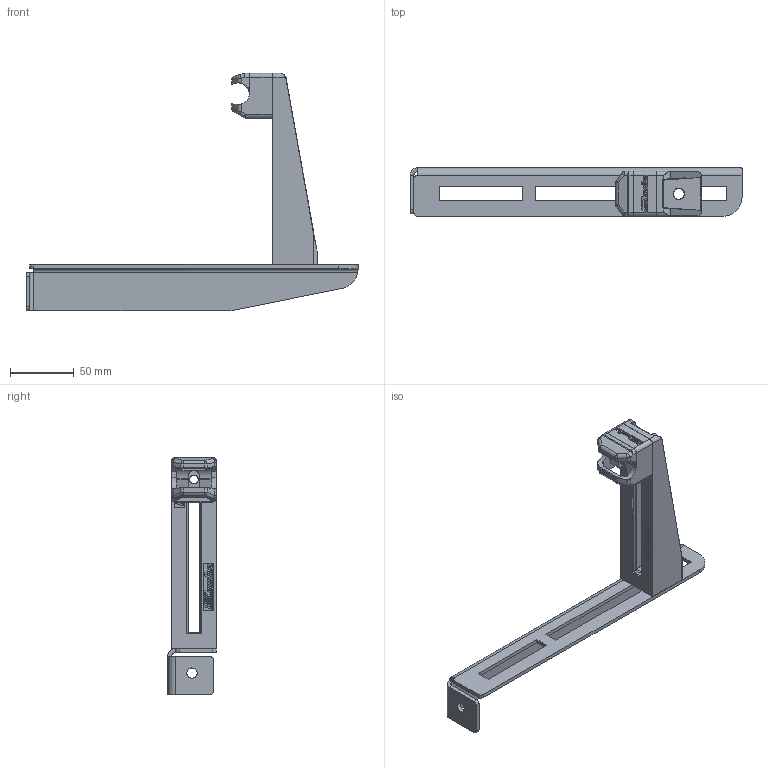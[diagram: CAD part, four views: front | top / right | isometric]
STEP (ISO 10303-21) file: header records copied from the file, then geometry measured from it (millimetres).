
FILE_DESCRIPTION(/* description */ (''),/* implementation_level */ '2;1');
FILE_NAME(/* name */ '\\carryline.intra\privat\users\mathias\Desktop\Tillfälliga filer\300-0940.stp',/* time_stamp */ '2018-11-30T08:54:37+01:00',/* author */ ('PL'),/* organization */ (''),/* preprocessor_version */ 'ST-DEVELOPER v17',/* originating_system */ 'Autodesk Inventor 2018',/* authorisation */ '');
FILE_SCHEMA (('AUTOMOTIVE_DESIGN { 1 0 10303 214 3 1 1 }'));
Length unit declared in the file: millimetre
Products named in the file (4): 300-0940; 300-2260; 300-2150; 300-1000
Assembly tree (3 placements, depth 2):
  300-0940
    300-2260
    300-2150
    300-1000
Bounding box: 260 x 38 x 186.1 mm (x, y, z)
Volume: 121681.6 mm3; surface area: 70622.6 mm2
Topology: 5 solids, 5 shells, 910 faces, 2208 edges, 1295 vertices
Faces by surface type: plane 510, cylinder 227, bspline 70, sphere 54, torus 49
Full cylindrical faces by diameter (mm): 6.647 x1, 8.1 x1, 8.5 x1, 9 x1
Entity records: 28062 total; most frequent: CARTESIAN_POINT 6537, DIRECTION 4338, ORIENTED_EDGE 4276, EDGE_CURVE 2138, LINE 1512, VECTOR 1512, AXIS2_PLACEMENT_3D 1413, VERTEX_POINT 1295
